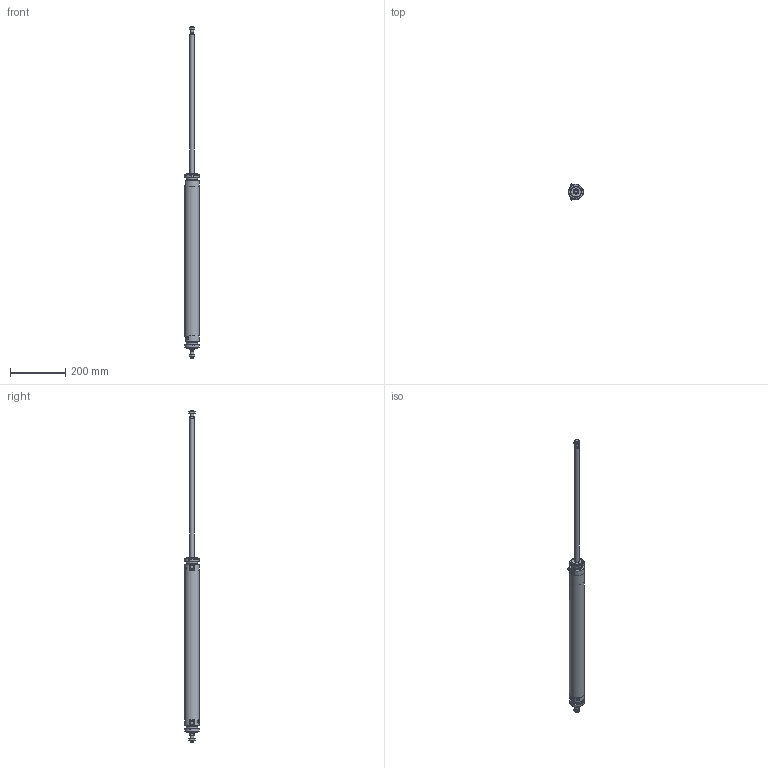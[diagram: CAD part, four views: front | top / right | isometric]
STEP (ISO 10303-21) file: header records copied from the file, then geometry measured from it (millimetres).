
FILE_DESCRIPTION(/* description */ (''),/* implementation_level */ '2;1');
FILE_NAME(/* name */ 'I:\Area Tecnica\Documenti\A-Manieri\_Inventor\12X\12X#S_###_####_#_#\12XDS_050_0500_#_#.stp',/* time_stamp */ '2015-05-13T08:21:01+02:00',/* author */ ('maniean1'),/* organization */ ('Pneumax S.p.A.'),/* preprocessor_version */ 'ST-DEVELOPER v15.2',/* originating_system */ 'Autodesk Inventor 2014',/* authorisation */ '');
FILE_SCHEMA (('AUTOMOTIVE_DESIGN { 1 0 10303 214 3 1 1 }'));
Length unit declared in the file: millimetre
Products named in the file (6): C1250_619-0500; 12X50_606; SP12X50_0500; 12X_50_11; G12X_050_05; 12XDS_050_0500_#_#
Bounding box: 54 x 57.75 x 1202 mm (x, y, z)
Volume: 643476.7 mm3; surface area: 282987.9 mm2
Topology: 8 solids, 8 shells, 151 faces, 345 edges, 222 vertices
Faces by surface type: plane 78, cylinder 37, cone 34, torus 2
Full cylindrical faces by diameter (mm): 5 x2, 10.2 x2, 11 x2, 11.4 x2, 12 x4, 14 x2, 15.6 x2, 16 x2, 38.2 x2, 40 x6, 50 x2, 54 x3
Entity records: 2556 total; most frequent: CARTESIAN_POINT 505, DIRECTION 428, ORIENTED_EDGE 342, AXIS2_PLACEMENT_3D 182, EDGE_CURVE 171, EDGE_LOOP 144, VERTEX_POINT 129, ADVANCED_FACE 94
